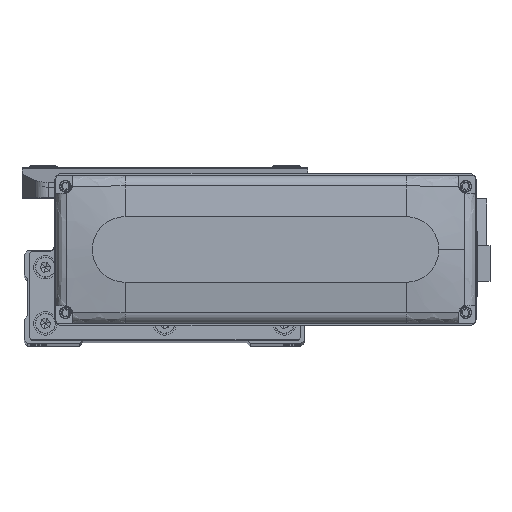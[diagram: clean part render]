
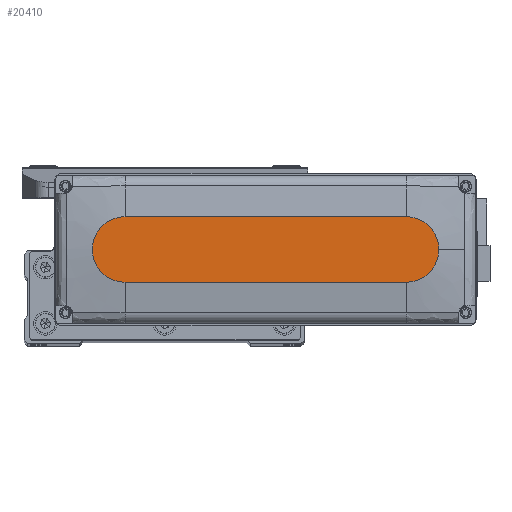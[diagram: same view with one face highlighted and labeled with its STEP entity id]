
A CAD part, top view. The second image highlights one B-rep face of the part: STEP entity #20410.
In plain terms, the highlighted planar face has unit normal (0, 0, 1).
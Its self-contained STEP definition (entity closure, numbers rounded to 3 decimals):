
#530 = LINE ( 'NONE', #14463, #14872 ) ;
#3520 = DIRECTION ( 'NONE',  ( 0., 0., 1. ) ) ;
#5340 = CARTESIAN_POINT ( 'NONE',  ( 60., 0., 28.5 ) ) ;
#5668 = EDGE_CURVE ( 'NONE', #41727, #24606, #31919, .T. ) ;
#6964 = FACE_OUTER_BOUND ( 'NONE', #37670, .T. ) ;
#7190 = EDGE_CURVE ( 'NONE', #24606, #26347, #14436, .T. ) ;
#8208 = EDGE_CURVE ( 'NONE', #8272, #26921, #8797, .T. ) ;
#8272 = VERTEX_POINT ( 'NONE', #19933 ) ;
#8797 = CIRCLE ( 'NONE', #34321, 14. ) ;
#9068 = CARTESIAN_POINT ( 'NONE',  ( -60., 14., 28.5 ) ) ;
#9400 = AXIS2_PLACEMENT_3D ( 'NONE', #9729, #23666, #37613 ) ;
#9729 = CARTESIAN_POINT ( 'NONE',  ( 60., 0., 28.5 ) ) ;
#10166 = VECTOR ( 'NONE', #42294, 1000. ) ;
#12534 = AXIS2_PLACEMENT_3D ( 'NONE', #34821, #3520, #17438 ) ;
#12882 = CARTESIAN_POINT ( 'NONE',  ( -60., -14., 28.5 ) ) ;
#13896 = DIRECTION ( 'NONE',  ( 1., 0., 0. ) ) ;
#14233 = ORIENTED_EDGE ( 'NONE', *, *, #5668, .T. ) ;
#14436 = LINE ( 'NONE', #28351, #10166 ) ;
#14463 = CARTESIAN_POINT ( 'NONE',  ( -60., 14., 28.5 ) ) ;
#14872 = VECTOR ( 'NONE', #28381, 1000. ) ;
#14909 = ORIENTED_EDGE ( 'NONE', *, *, #26087, .T. ) ;
#17438 = DIRECTION ( 'NONE',  ( 1., 0., 0. ) ) ;
#18064 = AXIS2_PLACEMENT_3D ( 'NONE', #31254, #34726, #13896 ) ;
#19270 = DIRECTION ( 'NONE',  ( 0., 0., 1. ) ) ;
#19933 = CARTESIAN_POINT ( 'NONE',  ( 74., 0., 28.5 ) ) ;
#20410 = ADVANCED_FACE ( 'NONE', ( #6964 ), #20888, .T. ) ;
#20888 = PLANE ( 'NONE',  #12534 ) ;
#23666 = DIRECTION ( 'NONE',  ( 0., 0., 1. ) ) ;
#24606 = VERTEX_POINT ( 'NONE', #12882 ) ;
#26087 = EDGE_CURVE ( 'NONE', #26921, #41727, #530, .T. ) ;
#26347 = VERTEX_POINT ( 'NONE', #40922 ) ;
#26921 = VERTEX_POINT ( 'NONE', #42227 ) ;
#28351 = CARTESIAN_POINT ( 'NONE',  ( -60., -14., 28.5 ) ) ;
#28381 = DIRECTION ( 'NONE',  ( -1., 0., 0. ) ) ;
#29089 = CIRCLE ( 'NONE', #9400, 14. ) ;
#31254 = CARTESIAN_POINT ( 'NONE',  ( -60., 0., 28.5 ) ) ;
#31919 = CIRCLE ( 'NONE', #18064, 14. ) ;
#33201 = DIRECTION ( 'NONE',  ( 1., 0., 0. ) ) ;
#34321 = AXIS2_PLACEMENT_3D ( 'NONE', #5340, #19270, #33201 ) ;
#34726 = DIRECTION ( 'NONE',  ( 0., 0., 1. ) ) ;
#34821 = CARTESIAN_POINT ( 'NONE',  ( 0., 0., 28.5 ) ) ;
#36207 = ORIENTED_EDGE ( 'NONE', *, *, #42468, .T. ) ;
#36430 = ORIENTED_EDGE ( 'NONE', *, *, #8208, .T. ) ;
#37613 = DIRECTION ( 'NONE',  ( 1., 0., 0. ) ) ;
#37670 = EDGE_LOOP ( 'NONE', ( #14909, #14233, #42586, #36207, #36430 ) ) ;
#40922 = CARTESIAN_POINT ( 'NONE',  ( 60., -14., 28.5 ) ) ;
#41727 = VERTEX_POINT ( 'NONE', #9068 ) ;
#42227 = CARTESIAN_POINT ( 'NONE',  ( 60., 14., 28.5 ) ) ;
#42294 = DIRECTION ( 'NONE',  ( 1., 0., 0. ) ) ;
#42468 = EDGE_CURVE ( 'NONE', #26347, #8272, #29089, .T. ) ;
#42586 = ORIENTED_EDGE ( 'NONE', *, *, #7190, .T. ) ;
